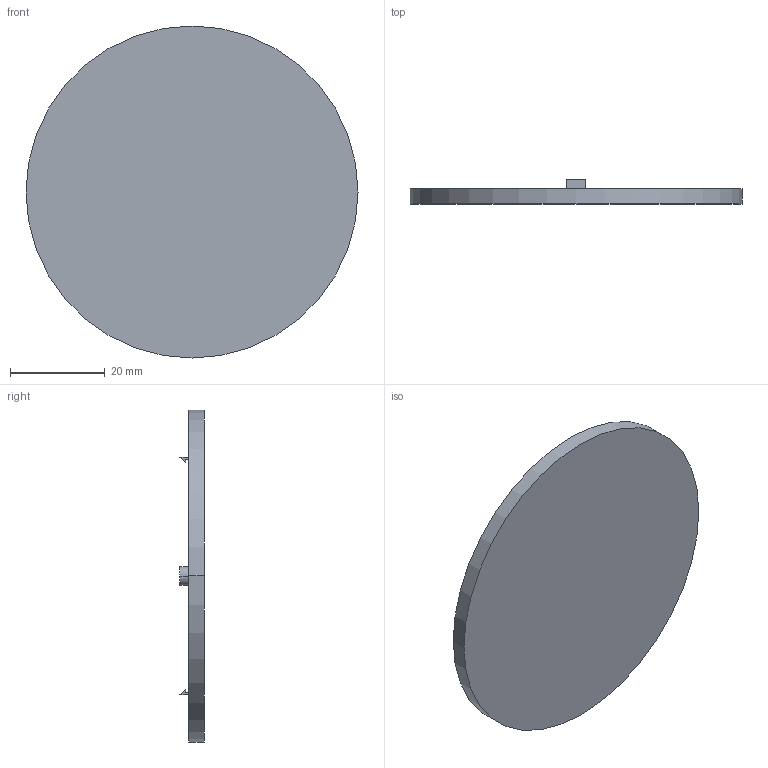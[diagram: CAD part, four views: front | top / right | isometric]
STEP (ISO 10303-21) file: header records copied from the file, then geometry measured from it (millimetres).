
FILE_DESCRIPTION( ( '' ), '1' );
FILE_NAME( 'C:/Documents and Settings/Sachin/Desktop/Sheet 10_1/stp/9086698.stp', '2013-10-22T05:35:59', ( '' ), ( '' ), ' ', ' ', ' ' );
FILE_SCHEMA( ( 'CONFIG_CONTROL_DESIGN' ) );
Length unit declared in the file: millimetre
Products named in the file (1): 1
Bounding box: 70 x 5.1 x 70 mm (x, y, z)
Volume: 6732 mm3; surface area: 8847.3 mm2
Topology: 1 solids, 1 shells, 22 faces, 48 edges, 32 vertices
Faces by surface type: plane 16, cylinder 6
Entity records: 648 total; most frequent: DIRECTION 106, CARTESIAN_POINT 103, ORIENTED_EDGE 96, EDGE_CURVE 48, LINE 36, VECTOR 36, AXIS2_PLACEMENT_3D 35, VERTEX_POINT 32
